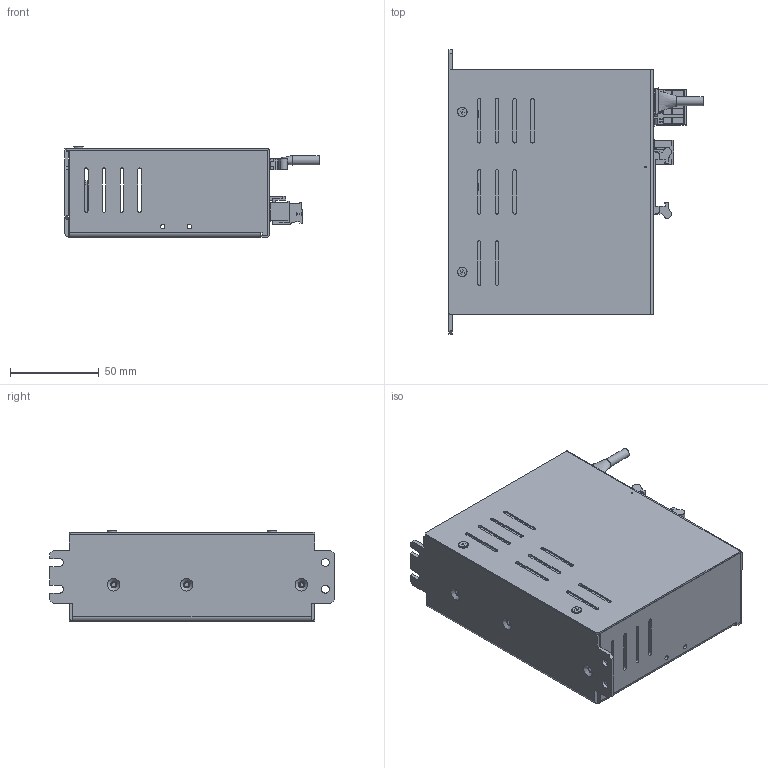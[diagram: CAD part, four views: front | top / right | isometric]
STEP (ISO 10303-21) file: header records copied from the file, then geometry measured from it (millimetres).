
FILE_DESCRIPTION( ( '' ), '1' );
FILE_NAME( 'D:/DIMA/02-驅動器/AC-五相/DSE514F/DSE514F_VerB.stp', '2020-10-29T04:54:46', ( 'Dimamotor' ), ( 'Dimamotor' ), 'PSStep 17.0.49', ' ', ' ' );
FILE_SCHEMA( ( 'AUTOMOTIVE_DESIGN { 1 0 10303 214 1 1 1 1 }' ) );
Length unit declared in the file: millimetre
Products named in the file (56): 牛角20P-P2; 短耳; LED RJ45  3D2;     MSBR; DSE514F_PCB-E_VerB; 5023860970; 指撥開關-2P; DSE514F_PCB-P_VerB; PRT0001; To-220_後極A; To-220_上臂C; To-220_下臂B; 間隔PCB; To-247_D; To-220AB_E; 數字開關-ERD1xxxF_P5.08; C-1586041-6; LED含座-G_AL-33-1R; LED含座-紅_AL-33-1R; MEHA-M04-15_VerA; Assem1; MEAA-D15-41_VerB; M3鉚釘-5.5高; M3x35L_銅柱; M3x4L平頭; C-1586765-6; 5023800900; 5ESDPL-04P; U15-POP
Assembly tree (101 placements, depth 4):
  Assem1
    MEAA-D15-41_VerB
    M3鉚釘-5.5高  x3
    MEHA-M04-15_VerA
    M3x35L_銅柱  x3
    M3x4L平頭  x2
    C-1586765-6
    5023800900
    5ESDPL-04P
    U15-POP
    DSE514F_PCB-P_VerB
      PRT0001
      To-220_後極A  x10
      To-220_上臂C  x3
      To-220_下臂B  x3
      間隔PCB
      To-247_D
      To-220AB_E
      數字開關-ERD1xxxF_P5.08  x2
      C-1586041-6
      LED含座-G_AL-33-1R
      LED含座-紅_AL-33-1R
      DSE514F_PCB-P_VerB
      MEHA-M04-15_VerA
    DSE514F_PCB-E_VerB
      5023860970
      指撥開關-2P
      DSE514F_PCB-E_VerB
          MSBR
          MSBR
          MSBR
          MSBR
          MSBR
          MSBR
          MSBR
          MSBR
          MSBR
          MSBR
          MSBR
          MSBR
          MSBR
          MSBR
          MSBR
          MSBR
          MSBR
          MSBR
          MSBR
          MSBR
          MSBR
          MSBR
          MSBR
          MSBR
          MSBR
      LED RJ45  3D2
            MSBR
            MSBR
            MSBR
            MSBR
            MSBR
            MSBR
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Bounding box: 142.9 x 160 x 50.9 mm (x, y, z)
Volume: 179636.2 mm3; surface area: 238057 mm2
Topology: 97 solids, 97 shells, 5620 faces, 14860 edges, 9620 vertices
Faces by surface type: plane 4604, cylinder 838, bspline 60, cone 58, torus 54, sphere 6
Full cylindrical faces by diameter (mm): 0.48 x1, 0.644 x1, 0.7 x4, 0.8 x5, 0.827 x1, 1 x65, 1.2 x3, 1.5 x1, 1.6 x12, 2 x5, 2.459 x3, 2.5 x14, 2.973 x4, 3 x10, 3.2 x7, 3.5 x3, 3.7 x11, 3.95 x4, 4 x27, 4.05 x8, 4.2 x6, 4.5 x2, 5 x1, 5.35 x2, 6 x3, 7 x3, 8 x2
Entity records: 187676 total; most frequent: CARTESIAN_POINT 41801, ORIENTED_EDGE 21100, DIRECTION 19904, EDGE_CURVE 10550, LINE 8940, VECTOR 8940, VERTEX_POINT 6947, PRESENTATION_STYLE_ASSIGNMENT 6516
